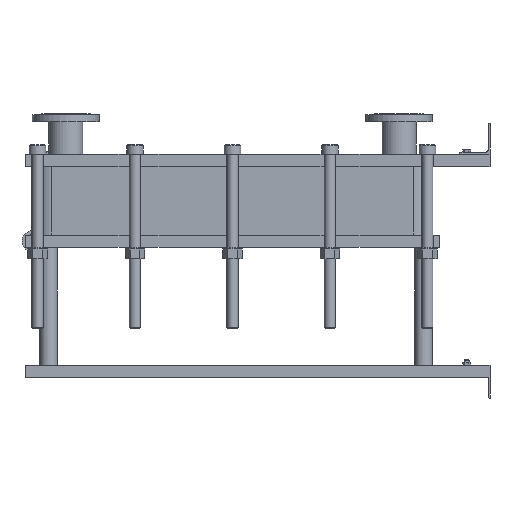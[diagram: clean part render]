
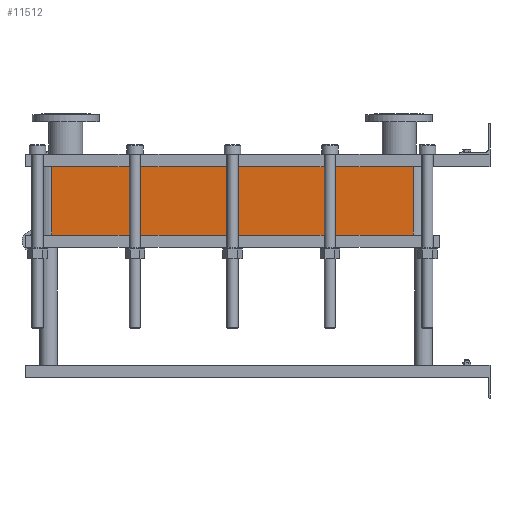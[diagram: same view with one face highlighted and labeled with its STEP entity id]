
A CAD part, left-side view. The second image highlights one B-rep face of the part: STEP entity #11512.
In plain terms, the highlighted planar face has unit normal (-1, 0, 0).
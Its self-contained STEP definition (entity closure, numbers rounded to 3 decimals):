
#1129=LINE('',#23232,#2102);
#1130=LINE('',#23236,#2103);
#1131=LINE('',#23238,#2104);
#1132=LINE('',#23239,#2105);
#2102=VECTOR('',#15887,10.);
#2103=VECTOR('',#15892,10.);
#2104=VECTOR('',#15893,10.);
#2105=VECTOR('',#15894,10.);
#3267=FACE_OUTER_BOUND('',#4093,.T.);
#4093=EDGE_LOOP('',(#10103,#10104,#10105,#10106));
#5642=VERTEX_POINT('',#23229);
#5643=VERTEX_POINT('',#23231);
#5644=VERTEX_POINT('',#23235);
#5645=VERTEX_POINT('',#23237);
#7159=EDGE_CURVE('',#5643,#5642,#1129,.T.);
#7161=EDGE_CURVE('',#5642,#5644,#1130,.T.);
#7162=EDGE_CURVE('',#5645,#5644,#1131,.T.);
#7163=EDGE_CURVE('',#5645,#5643,#1132,.T.);
#10103=ORIENTED_EDGE('',*,*,#7161,.T.);
#10104=ORIENTED_EDGE('',*,*,#7162,.F.);
#10105=ORIENTED_EDGE('',*,*,#7163,.T.);
#10106=ORIENTED_EDGE('',*,*,#7159,.T.);
#10857=PLANE('',#12751);
#11512=ADVANCED_FACE('',(#3267),#10857,.T.);
#12751=AXIS2_PLACEMENT_3D('',#23234,#15890,#15891);
#15887=DIRECTION('',(0.,0.,-1.));
#15890=DIRECTION('center_axis',(-1.,0.,0.));
#15891=DIRECTION('ref_axis',(0.,1.,0.));
#15892=DIRECTION('',(0.,-1.,0.));
#15893=DIRECTION('',(0.,0.,-1.));
#15894=DIRECTION('',(0.,1.,0.));
#23229=CARTESIAN_POINT('',(-200.,1414.,-220.8));
#23231=CARTESIAN_POINT('',(-200.,1414.,0.));
#23232=CARTESIAN_POINT('',(-200.,1414.,0.));
#23234=CARTESIAN_POINT('Origin',(-200.,248.,0.));
#23235=CARTESIAN_POINT('',(-200.,248.,-220.8));
#23236=CARTESIAN_POINT('',(-200.,539.5,-220.8));
#23237=CARTESIAN_POINT('',(-200.,248.,0.));
#23238=CARTESIAN_POINT('',(-200.,248.,0.));
#23239=CARTESIAN_POINT('',(-200.,248.,0.));
